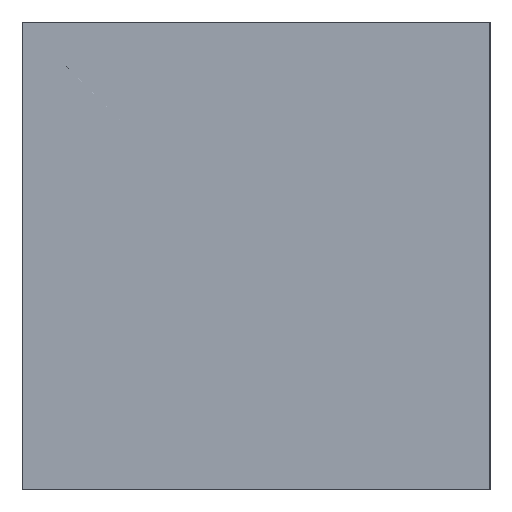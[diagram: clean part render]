
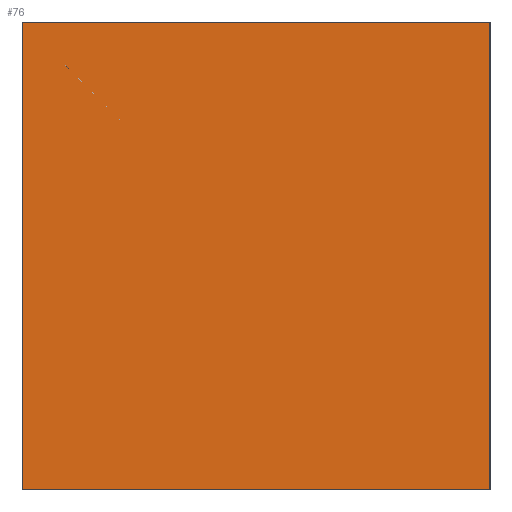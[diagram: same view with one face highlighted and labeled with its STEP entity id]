
A CAD part, left-side view. The second image highlights one B-rep face of the part: STEP entity #76.
In plain terms, the highlighted planar face has unit normal (-1, 0, 0).
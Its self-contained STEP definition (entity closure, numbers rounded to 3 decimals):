
#71=FACE_OUTER_BOUND('',#262,.T.);
#76=ADVANCED_FACE('',(#71),#119,.T.);
#119=PLANE('',#611);
#136=LINE('',#878,#148);
#138=LINE('',#890,#150);
#143=LINE('',#904,#155);
#144=LINE('',#908,#156);
#148=VECTOR('',#692,1.);
#150=VECTOR('',#704,1.);
#155=VECTOR('',#715,1.);
#156=VECTOR('',#720,1.);
#262=EDGE_LOOP('',(#361,#362,#363,#364));
#361=ORIENTED_EDGE('',*,*,#506,.T.);
#362=ORIENTED_EDGE('',*,*,#519,.T.);
#363=ORIENTED_EDGE('',*,*,#512,.F.);
#364=ORIENTED_EDGE('',*,*,#521,.T.);
#452=VERTEX_POINT('',#877);
#453=VERTEX_POINT('',#879);
#458=VERTEX_POINT('',#891);
#459=VERTEX_POINT('',#892);
#506=EDGE_CURVE('',#453,#452,#136,.T.);
#512=EDGE_CURVE('',#458,#459,#138,.T.);
#519=EDGE_CURVE('',#452,#459,#143,.T.);
#521=EDGE_CURVE('',#458,#453,#144,.T.);
#611=AXIS2_PLACEMENT_3D('',#909,#721,#722);
#692=DIRECTION('',(0.,0.,1.));
#704=DIRECTION('',(0.,0.,1.));
#715=DIRECTION('',(0.,1.,0.));
#720=DIRECTION('',(0.,-1.,0.));
#721=DIRECTION('',(-1.,0.,0.));
#722=DIRECTION('',(0.,0.,1.));
#877=CARTESIAN_POINT('',(-32.,-20.,0.));
#878=CARTESIAN_POINT('',(-32.,-20.,-40.));
#879=CARTESIAN_POINT('',(-32.,-20.,-40.));
#890=CARTESIAN_POINT('',(-32.,20.,-40.));
#891=CARTESIAN_POINT('',(-32.,20.,-40.));
#892=CARTESIAN_POINT('',(-32.,20.,0.));
#904=CARTESIAN_POINT('',(-32.,0.,0.));
#908=CARTESIAN_POINT('',(-32.,0.,-40.));
#909=CARTESIAN_POINT('',(-32.,0.,-40.));
